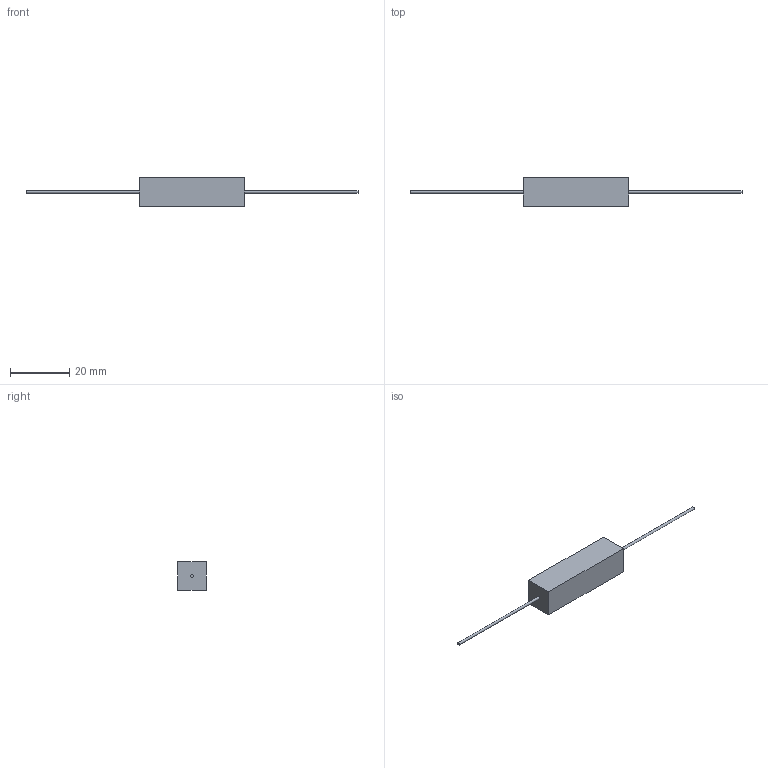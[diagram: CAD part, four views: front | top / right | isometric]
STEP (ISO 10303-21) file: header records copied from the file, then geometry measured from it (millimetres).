
FILE_DESCRIPTION(/* description */ (''),/* implementation_level */ '2;1');
FILE_NAME(/* name */ 'C:\Users\mulla\Documents\SEI Models\Inventor Files\WCB_WCBF_NWCB\WCB7_stp.stp',/* time_stamp */ '2019-07-04T16:25:49-04:00',/* author */ ('mulla'),/* organization */ (''),/* preprocessor_version */ 'ST-DEVELOPER v16.1',/* originating_system */ 'Autodesk Inventor 2016',/* authorisation */ '');
FILE_SCHEMA (('AUTOMOTIVE_DESIGN { 1 0 10303 214 3 1 1 }'));
Length unit declared in the file: millimetre
Products named in the file (1): WCB7
Bounding box: 111.76 x 9.53 x 9.53 mm (x, y, z)
Volume: 3279.2 mm3; surface area: 1757.6 mm2
Topology: 3 solids, 3 shells, 12 faces, 18 edges, 12 vertices
Faces by surface type: plane 10, cylinder 2
Full cylindrical faces by diameter (mm): 0.91 x2
Entity records: 304 total; most frequent: DIRECTION 46, CARTESIAN_POINT 41, ORIENTED_EDGE 32, AXIS2_PLACEMENT_3D 17, EDGE_CURVE 16, STYLED_ITEM 15, EDGE_LOOP 14, FACE_OUTER_BOUND 12
